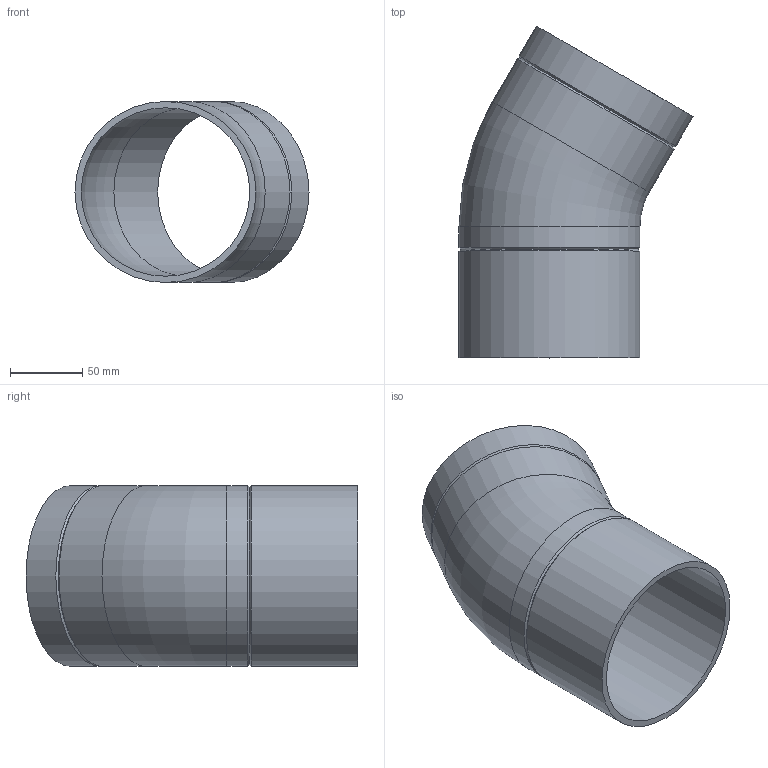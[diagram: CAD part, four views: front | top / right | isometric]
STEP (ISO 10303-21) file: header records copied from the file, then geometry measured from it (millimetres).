
FILE_DESCRIPTION(/* description */ (''),/* implementation_level */ '2;1');
FILE_NAME(/* name */ 'Z:\Geberit\Export\NewStep\PE Bogen Einzelteil_Ipart\stp\368030.stp',/* time_stamp */ '2014-04-02T11:55:48+02:00',/* author */ ('bruh'),/* organization */ (''),/* preprocessor_version */ 'ST-DEVELOPER v15.2',/* originating_system */ 'Autodesk Inventor 2014',/* authorisation */ '');
FILE_SCHEMA (('AUTOMOTIVE_DESIGN { 1 0 10303 214 3 1 1 }'));
Length unit declared in the file: millimetre
Products named in the file (1): 368030
Bounding box: 161.63 x 229.19 x 125 mm (x, y, z)
Volume: 338983.8 mm3; surface area: 162280.4 mm2
Topology: 1 solids, 1 shells, 14 faces, 28 edges, 16 vertices
Faces by surface type: cylinder 6, cone 4, torus 2, plane 2
Full cylindrical faces by diameter (mm): 116.4 x2, 125 x4
Entity records: 323 total; most frequent: DIRECTION 58, CARTESIAN_POINT 43, AXIS2_PLACEMENT_3D 29, EDGE_LOOP 28, ORIENTED_EDGE 28, FACE_BOUND 16, STYLED_ITEM 15, CIRCLE 14
